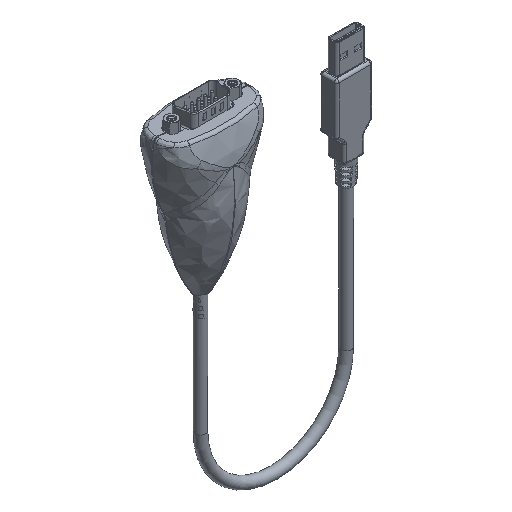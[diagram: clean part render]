
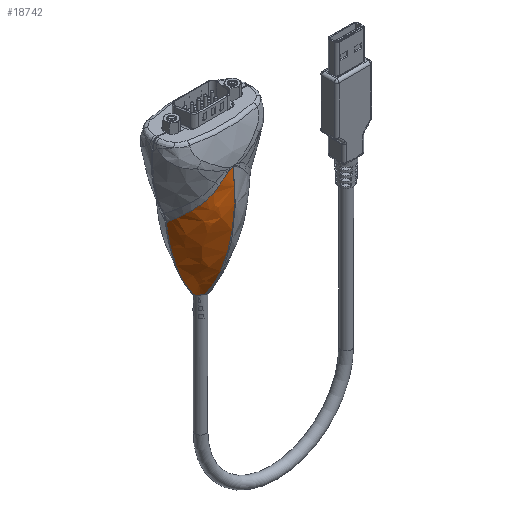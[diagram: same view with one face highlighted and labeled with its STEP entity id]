
A CAD part, isometric view. The second image highlights one B-rep face of the part: STEP entity #18742.
In plain terms, the highlighted free-form (B-spline) face has degree [2, 2] with [3, 3] control points.
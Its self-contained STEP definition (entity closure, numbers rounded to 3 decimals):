
#248=(
BOUNDED_SURFACE()
B_SPLINE_SURFACE(2,2,((#40235,#40236,#40237),(#40238,#40239,#40240),(#40241,
#40242,#40243)),.UNSPECIFIED.,.F.,.F.,.F.)
B_SPLINE_SURFACE_WITH_KNOTS((3,3),(3,3),(-0.459,0.189),
(1.573,2.946),.UNSPECIFIED.)
GEOMETRIC_REPRESENTATION_ITEM()
RATIONAL_B_SPLINE_SURFACE(((1.,0.773,1.),(0.948,
0.733,0.948),(1.,0.773,1.)))
REPRESENTATION_ITEM('')
SURFACE()
);
#1186=B_SPLINE_CURVE_WITH_KNOTS('',3,(#36290,#36291,#36292,#36293,#36294,
#36295,#36296,#36297,#36298,#36299,#36300,#36301,#36302,#36303),
 .UNSPECIFIED.,.F.,.F.,(4,2,2,2,2,2,4),(0.814,0.892,
1.448,2.003,2.678,3.353,3.962),
 .UNSPECIFIED.);
#1194=B_SPLINE_CURVE_WITH_KNOTS('',3,(#36398,#36399,#36400,#36401,#36402,
#36403,#36404),.UNSPECIFIED.,.F.,.F.,(4,3,4),(0.,0.012,0.025),
 .UNSPECIFIED.);
#1205=B_SPLINE_CURVE_WITH_KNOTS('',3,(#36530,#36531,#36532,#36533,#36534,
#36535),.UNSPECIFIED.,.F.,.F.,(4,2,4),(1.629,1.854,
1.993),.UNSPECIFIED.);
#1419=B_SPLINE_CURVE_WITH_KNOTS('',3,(#40245,#40246,#40247,#40248,#40249,
#40250,#40251,#40252),.UNSPECIFIED.,.F.,.F.,(4,1,1,1,1,4),(0.527,
0.883,1.239,2.664,4.089,5.514),
 .UNSPECIFIED.);
#1420=B_SPLINE_CURVE_WITH_KNOTS('',3,(#40254,#40255,#40256,#40257,#40258,
#40259,#40260,#40261,#40262,#40263),.UNSPECIFIED.,.F.,.F.,(4,2,2,2,4),(-0.731,
-0.612,-0.493,-0.423,-0.412),
 .UNSPECIFIED.);
#1421=B_SPLINE_CURVE_WITH_KNOTS('',3,(#40265,#40266,#40267,#40268),
 .UNSPECIFIED.,.F.,.F.,(4,4),(0.187,0.54),
 .UNSPECIFIED.);
#1422=B_SPLINE_CURVE_WITH_KNOTS('',3,(#40269,#40270,#40271,#40272,#40273,
#40274,#40275),.UNSPECIFIED.,.F.,.F.,(4,1,1,1,4),(0.,0.838,
1.257,2.096,2.934),.UNSPECIFIED.);
#2427=FACE_OUTER_BOUND('',#3642,.T.);
#3642=EDGE_LOOP('',(#16257,#16258,#16259,#16260,#16261,#16262,#16263));
#8496=VERTEX_POINT('',#36285);
#8497=VERTEX_POINT('',#36289);
#8511=VERTEX_POINT('',#36394);
#8529=VERTEX_POINT('',#36521);
#8816=VERTEX_POINT('',#40244);
#8817=VERTEX_POINT('',#40253);
#8818=VERTEX_POINT('',#40264);
#10875=EDGE_CURVE('',#8496,#8497,#1186,.T.);
#10891=EDGE_CURVE('',#8511,#8496,#1194,.T.);
#10911=EDGE_CURVE('',#8529,#8511,#1205,.T.);
#11390=EDGE_CURVE('',#8529,#8816,#1419,.T.);
#11391=EDGE_CURVE('',#8817,#8816,#1420,.T.);
#11392=EDGE_CURVE('',#8817,#8818,#1421,.T.);
#11393=EDGE_CURVE('',#8818,#8497,#1422,.T.);
#16257=ORIENTED_EDGE('',*,*,#10891,.F.);
#16258=ORIENTED_EDGE('',*,*,#10911,.F.);
#16259=ORIENTED_EDGE('',*,*,#11390,.T.);
#16260=ORIENTED_EDGE('',*,*,#11391,.F.);
#16261=ORIENTED_EDGE('',*,*,#11392,.T.);
#16262=ORIENTED_EDGE('',*,*,#11393,.T.);
#16263=ORIENTED_EDGE('',*,*,#10875,.F.);
#18742=ADVANCED_FACE('',(#2427),#248,.T.);
#36285=CARTESIAN_POINT('',(-3.787,-0.2,-63.529));
#36289=CARTESIAN_POINT('',(-14.879,-0.2,-32.217));
#36290=CARTESIAN_POINT('Ctrl Pts',(-3.787,-0.2,-63.529));
#36291=CARTESIAN_POINT('Ctrl Pts',(-3.952,-0.2,-63.304));
#36292=CARTESIAN_POINT('Ctrl Pts',(-4.11,-0.2,-63.082));
#36293=CARTESIAN_POINT('Ctrl Pts',(-5.318,-0.2,-61.347));
#36294=CARTESIAN_POINT('Ctrl Pts',(-6.36,-0.2,-59.603));
#36295=CARTESIAN_POINT('Ctrl Pts',(-8.25,-0.2,-56.008));
#36296=CARTESIAN_POINT('Ctrl Pts',(-9.097,-0.2,-54.157));
#36297=CARTESIAN_POINT('Ctrl Pts',(-10.657,-0.2,-50.364));
#36298=CARTESIAN_POINT('Ctrl Pts',(-11.447,-0.2,-48.145));
#36299=CARTESIAN_POINT('Ctrl Pts',(-12.827,-0.2,-43.54));
#36300=CARTESIAN_POINT('Ctrl Pts',(-13.418,-0.2,-41.155));
#36301=CARTESIAN_POINT('Ctrl Pts',(-14.315,-0.2,-36.574));
#36302=CARTESIAN_POINT('Ctrl Pts',(-14.646,-0.2,-34.382));
#36303=CARTESIAN_POINT('Ctrl Pts',(-14.879,-0.2,-32.217));
#36394=CARTESIAN_POINT('',(-3.935,0.,-63.524));
#36398=CARTESIAN_POINT('Ctrl Pts',(-3.935,0.,
-63.524));
#36399=CARTESIAN_POINT('Ctrl Pts',(-3.911,-0.034,
-63.525));
#36400=CARTESIAN_POINT('Ctrl Pts',(-3.887,-0.067,
-63.526));
#36401=CARTESIAN_POINT('Ctrl Pts',(-3.862,-0.1,
-63.527));
#36402=CARTESIAN_POINT('Ctrl Pts',(-3.838,-0.133,
-63.527));
#36403=CARTESIAN_POINT('Ctrl Pts',(-3.813,-0.167,
-63.528));
#36404=CARTESIAN_POINT('Ctrl Pts',(-3.787,-0.2,
-63.529));
#36521=CARTESIAN_POINT('',(-1.221,-2.362,-63.594));
#36530=CARTESIAN_POINT('Ctrl Pts',(-1.221,-2.362,
-63.594));
#36531=CARTESIAN_POINT('Ctrl Pts',(-1.882,-2.012,
-63.588));
#36532=CARTESIAN_POINT('Ctrl Pts',(-2.492,-1.57,
-63.577));
#36533=CARTESIAN_POINT('Ctrl Pts',(-3.363,-0.724,
-63.55));
#36534=CARTESIAN_POINT('Ctrl Pts',(-3.665,-0.374,
-63.538));
#36535=CARTESIAN_POINT('Ctrl Pts',(-3.935,0.,
-63.524));
#40235=CARTESIAN_POINT('Ctrl Pts',(2.603,-3.348,-63.446));
#40236=CARTESIAN_POINT('Ctrl Pts',(-3.914,-3.337,
-63.787));
#40237=CARTESIAN_POINT('Ctrl Pts',(-5.197,3.056,-63.518));
#40238=CARTESIAN_POINT('Ctrl Pts',(1.356,-16.475,-40.061));
#40239=CARTESIAN_POINT('Ctrl Pts',(-14.892,-16.446,-40.911));
#40240=CARTESIAN_POINT('Ctrl Pts',(-18.09,-0.507,
-40.242));
#40241=CARTESIAN_POINT('Ctrl Pts',(-0.027,-12.819,
-13.502));
#40242=CARTESIAN_POINT('Ctrl Pts',(-12.145,-12.797,-14.135));
#40243=CARTESIAN_POINT('Ctrl Pts',(-14.53,-0.91,-13.637));
#40244=CARTESIAN_POINT('',(-0.027,-12.819,-13.502));
#40245=CARTESIAN_POINT('Ctrl Pts',(-1.221,-2.362,
-63.594));
#40246=CARTESIAN_POINT('Ctrl Pts',(-1.081,-3.122,
-62.562));
#40247=CARTESIAN_POINT('Ctrl Pts',(-0.881,-4.471,
-60.437));
#40248=CARTESIAN_POINT('Ctrl Pts',(-0.516,-7.966,
-53.807));
#40249=CARTESIAN_POINT('Ctrl Pts',(-0.321,-11.71,
-43.166));
#40250=CARTESIAN_POINT('Ctrl Pts',(-0.16,-13.91,
-28.434));
#40251=CARTESIAN_POINT('Ctrl Pts',(-0.078,-13.491,
-18.406));
#40252=CARTESIAN_POINT('Ctrl Pts',(-0.027,-12.819,
-13.502));
#40253=CARTESIAN_POINT('',(-3.442,-12.652,-15.709));
#40254=CARTESIAN_POINT('Ctrl Pts',(-3.442,-12.652,
-15.709));
#40255=CARTESIAN_POINT('Ctrl Pts',(-3.048,-12.703,
-15.266));
#40256=CARTESIAN_POINT('Ctrl Pts',(-2.613,-12.742,
-14.824));
#40257=CARTESIAN_POINT('Ctrl Pts',(-1.694,-12.795,
-14.085));
#40258=CARTESIAN_POINT('Ctrl Pts',(-1.269,-12.806,-13.837));
#40259=CARTESIAN_POINT('Ctrl Pts',(-0.633,-12.816,
-13.598));
#40260=CARTESIAN_POINT('Ctrl Pts',(-0.394,-12.818,
-13.538));
#40261=CARTESIAN_POINT('Ctrl Pts',(-0.106,-12.819,
-13.507));
#40262=CARTESIAN_POINT('Ctrl Pts',(-0.066,-12.819,
-13.504));
#40263=CARTESIAN_POINT('Ctrl Pts',(-0.027,-12.819,
-13.502));
#40264=CARTESIAN_POINT('',(-5.199,-12.286,-17.684));
#40265=CARTESIAN_POINT('Ctrl Pts',(-3.441,-12.652,
-15.71));
#40266=CARTESIAN_POINT('Ctrl Pts',(-4.092,-12.548,
-16.247));
#40267=CARTESIAN_POINT('Ctrl Pts',(-4.683,-12.421,
-16.92));
#40268=CARTESIAN_POINT('Ctrl Pts',(-5.199,-12.286,
-17.684));
#40269=CARTESIAN_POINT('Ctrl Pts',(-5.199,-12.286,
-17.684));
#40270=CARTESIAN_POINT('Ctrl Pts',(-6.427,-11.963,
-19.498));
#40271=CARTESIAN_POINT('Ctrl Pts',(-8.478,-10.982,
-21.765));
#40272=CARTESIAN_POINT('Ctrl Pts',(-11.481,-8.376,
-25.099));
#40273=CARTESIAN_POINT('Ctrl Pts',(-13.86,-4.947,-28.156));
#40274=CARTESIAN_POINT('Ctrl Pts',(-14.727,-1.766,
-30.782));
#40275=CARTESIAN_POINT('Ctrl Pts',(-14.879,-0.2,
-32.217));
